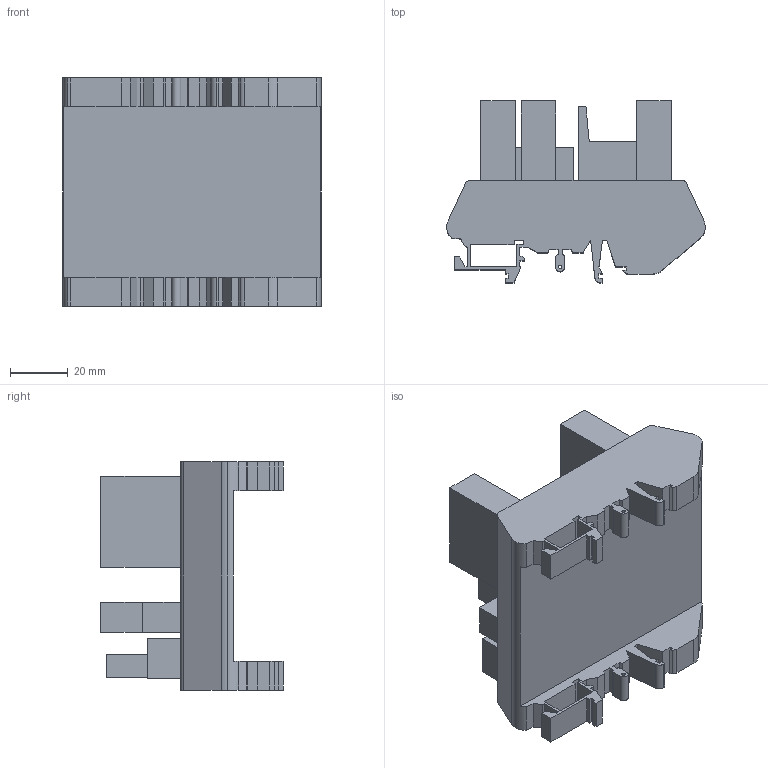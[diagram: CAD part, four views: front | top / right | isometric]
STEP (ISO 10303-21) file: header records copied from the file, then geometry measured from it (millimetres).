
FILE_DESCRIPTION (( 'STEP AP203' ), '1' );
FILE_NAME ('IntTemp.STEP', '2025-04-16T14:35:36', ( '' ), ( '' ), 'SwSTEP 2.0', 'SolidWorks 2021', '' );
FILE_SCHEMA (( 'CONFIG_CONTROL_DESIGN' ));
Length unit declared in the file: millimetre
Products named in the file (1): IntTemp
Bounding box: 89.47 x 63.03 x 79 mm (x, y, z)
Volume: 162536.5 mm3; surface area: 36035.6 mm2
Topology: 1 solids, 1 shells, 186 faces, 531 edges, 354 vertices
Faces by surface type: plane 165, cylinder 21
Entity records: 6074 total; most frequent: CARTESIAN_POINT 1072, ORIENTED_EDGE 1062, DIRECTION 951, EDGE_CURVE 531, LINE 485, VECTOR 485, VERTEX_POINT 354, AXIS2_PLACEMENT_3D 233
